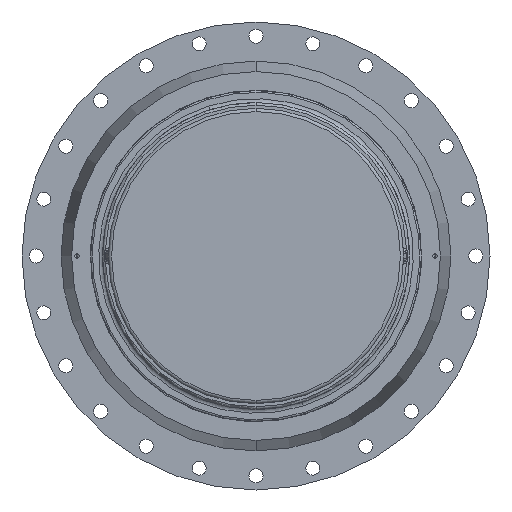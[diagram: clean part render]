
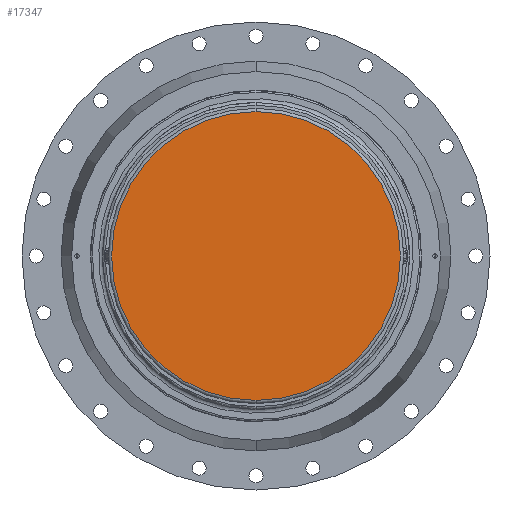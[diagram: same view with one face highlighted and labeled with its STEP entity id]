
A CAD part, front view. The second image highlights one B-rep face of the part: STEP entity #17347.
In plain terms, the highlighted planar face has unit normal (0, -1, 0).
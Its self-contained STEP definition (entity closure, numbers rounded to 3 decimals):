
#11718 = CARTESIAN_POINT ( 'NONE',  ( 0., -800.8, -266.25 ) ) ;
#12144 = ORIENTED_EDGE ( 'NONE', *, *, #116294, .T. ) ;
#17347 = ADVANCED_FACE ( 'NONE', ( #133068 ), #73246, .T. ) ;
#24623 = DIRECTION ( 'NONE',  ( 0., -1., 0. ) ) ;
#41371 = VERTEX_POINT ( 'NONE', #11718 ) ;
#42540 = DIRECTION ( 'NONE',  ( 0., -1., 0. ) ) ;
#46926 = EDGE_CURVE ( 'NONE', #46960, #41371, #94091, .T. ) ;
#46960 = VERTEX_POINT ( 'NONE', #78621 ) ;
#55229 = AXIS2_PLACEMENT_3D ( 'NONE', #98470, #24623, #110784 ) ;
#61657 = CARTESIAN_POINT ( 'NONE',  ( 0., -800.8, 0. ) ) ;
#73246 = PLANE ( 'NONE',  #55229 ) ;
#74046 = DIRECTION ( 'NONE',  ( 0., 0., 1. ) ) ;
#78621 = CARTESIAN_POINT ( 'NONE',  ( 0., -800.8, 266.25 ) ) ;
#91779 = AXIS2_PLACEMENT_3D ( 'NONE', #61657, #147676, #74046 ) ;
#94091 = CIRCLE ( 'NONE', #98212, 266.25 ) ;
#96314 = EDGE_LOOP ( 'NONE', ( #156014, #12144 ) ) ;
#98212 = AXIS2_PLACEMENT_3D ( 'NONE', #116222, #42540, #128572 ) ;
#98470 = CARTESIAN_POINT ( 'NONE',  ( -266.25, -800.8, 0. ) ) ;
#110784 = DIRECTION ( 'NONE',  ( 0., 0., -1. ) ) ;
#116222 = CARTESIAN_POINT ( 'NONE',  ( 0., -800.8, 0. ) ) ;
#116294 = EDGE_CURVE ( 'NONE', #41371, #46960, #132078, .T. ) ;
#128572 = DIRECTION ( 'NONE',  ( 0., 0., 1. ) ) ;
#132078 = CIRCLE ( 'NONE', #91779, 266.25 ) ;
#133068 = FACE_OUTER_BOUND ( 'NONE', #96314, .T. ) ;
#147676 = DIRECTION ( 'NONE',  ( 0., -1., 0. ) ) ;
#156014 = ORIENTED_EDGE ( 'NONE', *, *, #46926, .T. ) ;
